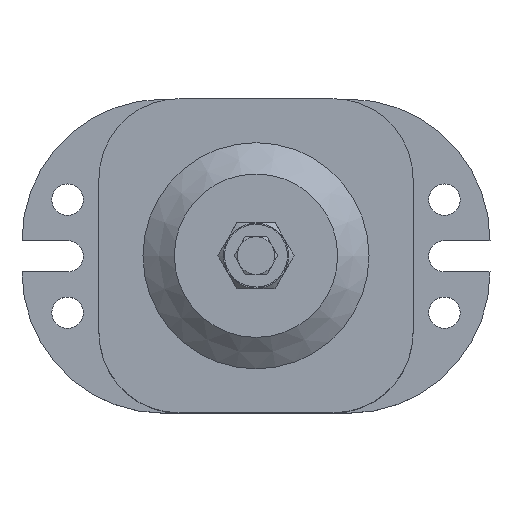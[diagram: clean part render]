
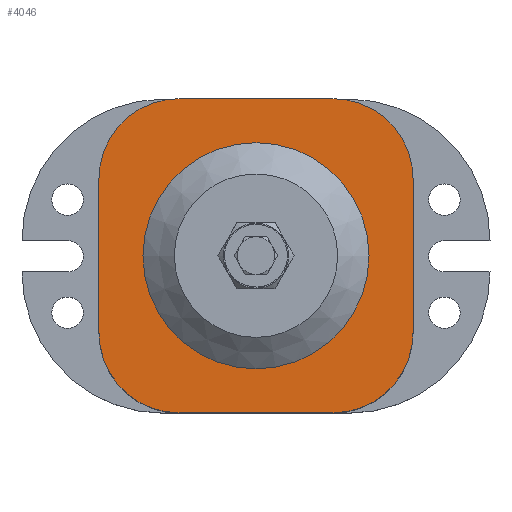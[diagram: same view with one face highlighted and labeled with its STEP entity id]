
A CAD part, top view. The second image highlights one B-rep face of the part: STEP entity #4046.
In plain terms, the highlighted planar face has unit normal (0, 0, 1).
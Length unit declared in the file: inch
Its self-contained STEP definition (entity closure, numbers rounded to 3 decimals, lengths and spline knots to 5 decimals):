
#98=FACE_BOUND('',#630,.T.);
#191=PLANE('',#4384);
#369=FACE_OUTER_BOUND('',#629,.T.);
#629=EDGE_LOOP('',(#2844,#2845,#2846,#2847,#2848,#2849,#2850,#2851));
#630=EDGE_LOOP('',(#2852));
#948=LINE('',#6395,#1194);
#951=LINE('',#6403,#1197);
#954=LINE('',#6411,#1200);
#956=LINE('',#6417,#1202);
#1194=VECTOR('',#5083,3.0625);
#1197=VECTOR('',#5092,3.0625);
#1200=VECTOR('',#5101,3.0625);
#1202=VECTOR('',#5109,3.0625);
#1440=CIRCLE('',#4348,2.25);
#1449=CIRCLE('',#4373,1.59375);
#1450=CIRCLE('',#4376,1.59375);
#1451=CIRCLE('',#4379,1.59375);
#1452=CIRCLE('',#4382,1.59375);
#1700=VERTEX_POINT('',#6327);
#1717=VERTEX_POINT('',#6387);
#1718=VERTEX_POINT('',#6389);
#1719=VERTEX_POINT('',#6393);
#1720=VERTEX_POINT('',#6397);
#1721=VERTEX_POINT('',#6401);
#1722=VERTEX_POINT('',#6405);
#1723=VERTEX_POINT('',#6409);
#1724=VERTEX_POINT('',#6413);
#2102=EDGE_CURVE('',#1700,#1700,#1440,.T.);
#2130=EDGE_CURVE('',#1717,#1718,#1449,.T.);
#2133=EDGE_CURVE('',#1719,#1717,#948,.T.);
#2135=EDGE_CURVE('',#1720,#1719,#1450,.T.);
#2137=EDGE_CURVE('',#1721,#1720,#951,.T.);
#2139=EDGE_CURVE('',#1722,#1721,#1451,.T.);
#2141=EDGE_CURVE('',#1723,#1722,#954,.T.);
#2143=EDGE_CURVE('',#1724,#1723,#1452,.T.);
#2144=EDGE_CURVE('',#1718,#1724,#956,.T.);
#2844=ORIENTED_EDGE('',*,*,#2144,.F.);
#2845=ORIENTED_EDGE('',*,*,#2130,.F.);
#2846=ORIENTED_EDGE('',*,*,#2133,.F.);
#2847=ORIENTED_EDGE('',*,*,#2135,.F.);
#2848=ORIENTED_EDGE('',*,*,#2137,.F.);
#2849=ORIENTED_EDGE('',*,*,#2139,.F.);
#2850=ORIENTED_EDGE('',*,*,#2141,.F.);
#2851=ORIENTED_EDGE('',*,*,#2143,.F.);
#2852=ORIENTED_EDGE('',*,*,#2102,.T.);
#4046=ADVANCED_FACE('',(#369,#98),#191,.T.);
#4348=AXIS2_PLACEMENT_3D('',#6328,#5008,#5009);
#4373=AXIS2_PLACEMENT_3D('',#6390,#5077,#5078);
#4376=AXIS2_PLACEMENT_3D('',#6399,#5087,#5088);
#4379=AXIS2_PLACEMENT_3D('',#6407,#5096,#5097);
#4382=AXIS2_PLACEMENT_3D('',#6415,#5105,#5106);
#4384=AXIS2_PLACEMENT_3D('',#6418,#5110,#5111);
#5008=DIRECTION('center_axis',(0.,0.,
-1.));
#5009=DIRECTION('ref_axis',(-1.,0.,0.));
#5077=DIRECTION('center_axis',(0.,0.,
-1.));
#5078=DIRECTION('ref_axis',(0.,1.,0.));
#5083=DIRECTION('',(0.,-1.,0.));
#5087=DIRECTION('center_axis',(0.,0.,
-1.));
#5088=DIRECTION('ref_axis',(-1.,0.,0.));
#5092=DIRECTION('',(1.,0.,0.));
#5096=DIRECTION('center_axis',(0.,0.,
-1.));
#5097=DIRECTION('ref_axis',(0.,-1.,0.));
#5101=DIRECTION('',(0.,1.,0.));
#5105=DIRECTION('center_axis',(0.,0.,
-1.));
#5106=DIRECTION('ref_axis',(1.,0.,0.));
#5109=DIRECTION('',(-1.,0.,0.));
#5110=DIRECTION('center_axis',(0.,0.,
1.));
#5111=DIRECTION('ref_axis',(-1.,0.,0.));
#6327=CARTESIAN_POINT('',(2.25,0.,5.5));
#6328=CARTESIAN_POINT('Origin',(0.,0.,
5.5));
#6387=CARTESIAN_POINT('',(3.125,-1.53125,5.5));
#6389=CARTESIAN_POINT('',(1.53125,-3.125,5.5));
#6390=CARTESIAN_POINT('Origin',(1.53125,-1.53125,5.5));
#6393=CARTESIAN_POINT('',(3.125,1.53125,5.5));
#6395=CARTESIAN_POINT('',(3.125,1.53125,5.5));
#6397=CARTESIAN_POINT('',(1.53125,3.125,5.5));
#6399=CARTESIAN_POINT('Origin',(1.53125,1.53125,5.5));
#6401=CARTESIAN_POINT('',(-1.53125,3.125,5.5));
#6403=CARTESIAN_POINT('',(-1.53125,3.125,5.5));
#6405=CARTESIAN_POINT('',(-3.125,1.53125,5.5));
#6407=CARTESIAN_POINT('Origin',(-1.53125,1.53125,5.5));
#6409=CARTESIAN_POINT('',(-3.125,-1.53125,5.5));
#6411=CARTESIAN_POINT('',(-3.125,-1.53125,5.5));
#6413=CARTESIAN_POINT('',(-1.53125,-3.125,5.5));
#6415=CARTESIAN_POINT('Origin',(-1.53125,-1.53125,5.5));
#6417=CARTESIAN_POINT('',(1.53125,-3.125,5.5));
#6418=CARTESIAN_POINT('Origin',(0.,0.,
5.5));
